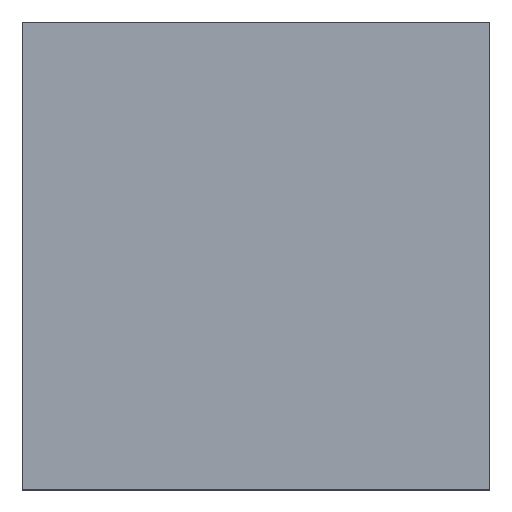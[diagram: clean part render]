
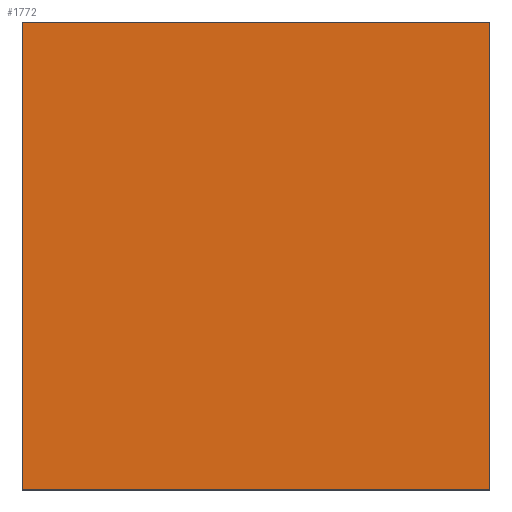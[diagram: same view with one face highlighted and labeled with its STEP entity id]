
A CAD part, top view. The second image highlights one B-rep face of the part: STEP entity #1772.
In plain terms, the highlighted planar face has unit normal (0, 0, 1).
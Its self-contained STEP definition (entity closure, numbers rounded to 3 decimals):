
#414=PLANE('',#6761);
#547=LINE('',#9532,#831);
#551=LINE('',#9541,#835);
#554=LINE('',#9547,#838);
#557=LINE('',#9553,#841);
#831=VECTOR('',#7366,1.);
#835=VECTOR('',#7372,1.);
#838=VECTOR('',#7377,1.);
#841=VECTOR('',#7382,1.);
#1772=ADVANCED_FACE('',(#2169),#414,.F.);
#2169=FACE_OUTER_BOUND('',#2535,.T.);
#2535=EDGE_LOOP('',(#4040,#4041,#4042,#4043));
#4040=ORIENTED_EDGE('',*,*,#5466,.T.);
#4041=ORIENTED_EDGE('',*,*,#5470,.T.);
#4042=ORIENTED_EDGE('',*,*,#5473,.T.);
#4043=ORIENTED_EDGE('',*,*,#5476,.T.);
#4752=VERTEX_POINT('',#9533);
#4753=VERTEX_POINT('',#9534);
#4756=VERTEX_POINT('',#9542);
#4758=VERTEX_POINT('',#9548);
#5466=EDGE_CURVE('',#4752,#4753,#547,.T.);
#5470=EDGE_CURVE('',#4753,#4756,#551,.T.);
#5473=EDGE_CURVE('',#4756,#4758,#554,.T.);
#5476=EDGE_CURVE('',#4758,#4752,#557,.T.);
#6761=AXIS2_PLACEMENT_3D('',#10965,#7960,#7961);
#7366=DIRECTION('',(0.,1.,0.));
#7372=DIRECTION('',(-1.,0.,0.));
#7377=DIRECTION('',(0.,-1.,0.));
#7382=DIRECTION('',(1.,0.,0.));
#7960=DIRECTION('',(0.,0.,-1.));
#7961=DIRECTION('',(-1.,0.,0.));
#9532=CARTESIAN_POINT('',(97.176,25.732,7.));
#9533=CARTESIAN_POINT('',(97.176,25.732,7.));
#9534=CARTESIAN_POINT('',(97.176,157.232,7.));
#9541=CARTESIAN_POINT('',(97.176,157.232,7.));
#9542=CARTESIAN_POINT('',(-34.324,157.232,7.));
#9547=CARTESIAN_POINT('',(-34.324,157.232,7.));
#9548=CARTESIAN_POINT('',(-34.324,25.732,7.));
#9553=CARTESIAN_POINT('',(-34.324,25.732,7.));
#10965=CARTESIAN_POINT('',(64.426,124.482,7.));
